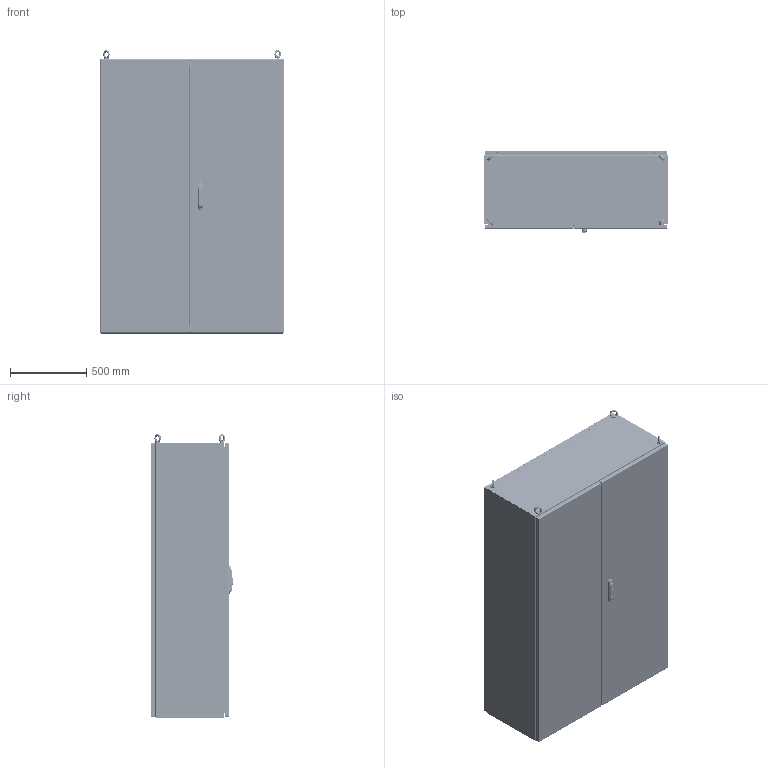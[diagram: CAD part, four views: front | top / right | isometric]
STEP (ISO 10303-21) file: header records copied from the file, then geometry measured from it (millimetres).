
FILE_DESCRIPTION(/* description */ (''),/* implementation_level */ '2;1');
FILE_NAME(/* name */ 'FCA12018050',/* time_stamp */ '2025-09-12T13:45:27+02:00',/* author */ ('INOXVENETA Spa'),/* organization */ ('www.inoxveneta.it '),/* preprocessor_version */ 'ST-DEVELOPER v19.4',/* originating_system */ 'Solid Edge',/* authorisation */ 'Unknown');
FILE_SCHEMA (('AUTOMOTIVE_DESIGN {1 0 10303 214 3 1 1}'));
Products named in the file (76): FCA12018050; F000X001.03; F0000000.87; F000X000.56; F0000000.48; F0000000.03; F0000000.02; F0000000.49; F000X000.55; F0000000.47; AE00500.10; AE00715.01; F000X000.12_oa_0; F000X000.17_oa_1; F0000000.20; 38790003.14_oa_2; F000X000.18_oa_3; F0000000.21; 38790003.14_oa_4; F000X000.19_oa_5; AE00217.25; AE00309.01; F000X000.20_oa_6; AE00368.00; AE00219.00; AE00224.00; F000X001.76; F000X001.77; F0000001.37; F0000000.07; AE00100.03_oa_7; AE00100.03_oa_8; AE00100.03_oa_9; AE00100.03_oa_10; C0000000.08; F0000000.08; F000X000.14; AE00989.12; M0000000.37; AE00198.03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
Assembly tree (320 placements, depth 4):
  FCA12018050
    F000X001.03
      F0000000.87  x2
      F000X000.56
        F0000000.48
        F0000000.03  x2
        F0000000.02  x4
        F0000000.49
      F000X000.55
        F0000000.47
        F0000000.03  x2
        F0000000.02  x4
        F0000000.49
      AE00500.10  x36
    AE00715.01  x4
    F000X000.12_oa_0
      F000X000.17_oa_1
        F0000000.20
        38790003.14_oa_2
      F000X000.18_oa_3
        F0000000.21
        38790003.14_oa_4
      F000X000.19_oa_5
        F0000000.21
        AE00217.25
        AE00309.01
      F000X000.20_oa_6
        F0000000.20
        AE00217.25
        AE00309.01
      AE00368.00  x8
      AE00219.00  x8
      AE00224.00  x2
    F000X001.76
      F000X001.77
        F0000001.37
      F0000000.07  x2
      AE00100.03_oa_7
      AE00100.03_oa_8
      AE00100.03_oa_9
      AE00100.03_oa_10
    C0000000.08
    F0000000.08  x8
    F000X000.14
      AE00989.12
    M0000000.37  x10
    AE00198.03  x16
    AE00219.03  x10
    F000X001.78
      F000X001.08
        F0000000.89
      F0000000.12  x8
      AE00222.15  x8
      AE00316.01  x8
      AE00315.01  x4
      AE00992.77  x2
      AE00992.31
      AE00992.18  x4
      AE00320.01  x2
      AE00636.02  x8
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Bounding box: 1200 x 538.2 x 1856.99 mm (x, y, z)
Volume: 16329347.2 mm3; surface area: 19934265.8 mm2
Topology: 344 solids, 344 shells, 15070 faces, 39479 edges, 25091 vertices
Faces by surface type: plane 8055, cylinder 4161, torus 966, bspline 742, cone 726, sphere 420
Full cylindrical faces by diameter (mm): 0.615 x8, 0.96 x1, 2 x4, 2.24 x2, 2.6 x8, 2.88 x1, 3 x1, 3.2 x2, 3.242 x2, 3.5 x1, 4 x27, 4.134 x17, 4.25 x344, 4.5 x414, 4.8 x8, 4.917 x66, 4.918 x16, 5 x21, 5.5 x2, 6 x120, 6.1 x40, 6.2 x17, 6.5 x40, 6.647 x4, 6.8 x2, 7.5 x4, 7.8 x6, 7.827 x8, 8 x20, 8.25 x4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
Entity records: 133733 total; most frequent: CARTESIAN_POINT 31137, DIRECTION 19550, ORIENTED_EDGE 19468, EDGE_CURVE 9734, LINE 6632, VECTOR 6632, VERTEX_POINT 6565, AXIS2_PLACEMENT_3D 6459
